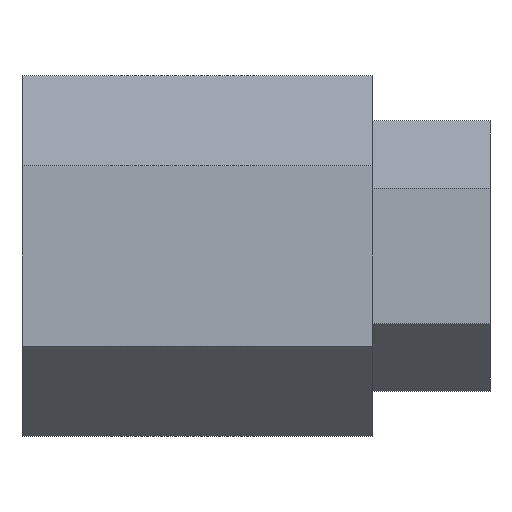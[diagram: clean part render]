
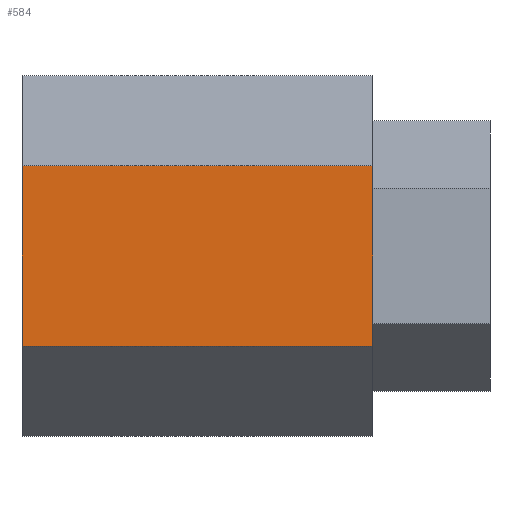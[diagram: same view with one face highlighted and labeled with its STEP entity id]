
A CAD part, left-side view. The second image highlights one B-rep face of the part: STEP entity #584.
In plain terms, the highlighted planar face has unit normal (-1, 0, 0).
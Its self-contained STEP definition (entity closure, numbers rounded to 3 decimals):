
#21 = DIRECTION ( 'NONE',  ( 0., 0., -1. ) ) ;
#99 = DIRECTION ( 'NONE',  ( 0., 0., 1. ) ) ;
#109 = EDGE_CURVE ( 'NONE', #203, #819, #821, .T. ) ;
#119 = VECTOR ( 'NONE', #235, 1000. ) ;
#126 = VERTEX_POINT ( 'NONE', #452 ) ;
#130 = EDGE_CURVE ( 'NONE', #389, #126, #740, .T. ) ;
#203 = VERTEX_POINT ( 'NONE', #476 ) ;
#235 = DIRECTION ( 'NONE',  ( 0., -1., 0. ) ) ;
#264 = EDGE_LOOP ( 'NONE', ( #789, #899, #849, #780 ) ) ;
#285 = CARTESIAN_POINT ( 'NONE',  ( -8., 0., 4.619 ) ) ;
#297 = AXIS2_PLACEMENT_3D ( 'NONE', #441, #451, #21 ) ;
#302 = EDGE_CURVE ( 'NONE', #389, #203, #408, .T. ) ;
#315 = DIRECTION ( 'NONE',  ( 0., -1., 0. ) ) ;
#337 = CARTESIAN_POINT ( 'NONE',  ( -8., 18., -4.619 ) ) ;
#360 = DIRECTION ( 'NONE',  ( 0., 0., 1. ) ) ;
#365 = CARTESIAN_POINT ( 'NONE',  ( -8., 18., 4.619 ) ) ;
#389 = VERTEX_POINT ( 'NONE', #558 ) ;
#408 = LINE ( 'NONE', #337, #674 ) ;
#441 = CARTESIAN_POINT ( 'NONE',  ( -8., 18., -4.619 ) ) ;
#451 = DIRECTION ( 'NONE',  ( 1., 0., 0. ) ) ;
#452 = CARTESIAN_POINT ( 'NONE',  ( -8., 0., -4.619 ) ) ;
#469 = EDGE_CURVE ( 'NONE', #126, #819, #723, .T. ) ;
#476 = CARTESIAN_POINT ( 'NONE',  ( -8., 18., 4.619 ) ) ;
#518 = PLANE ( 'NONE',  #297 ) ;
#558 = CARTESIAN_POINT ( 'NONE',  ( -8., 18., -4.619 ) ) ;
#584 = ADVANCED_FACE ( 'NONE', ( #805 ), #518, .F. ) ;
#594 = CARTESIAN_POINT ( 'NONE',  ( -8., 18., -4.619 ) ) ;
#674 = VECTOR ( 'NONE', #360, 1000. ) ;
#689 = VECTOR ( 'NONE', #99, 1000. ) ;
#723 = LINE ( 'NONE', #879, #689 ) ;
#740 = LINE ( 'NONE', #594, #882 ) ;
#780 = ORIENTED_EDGE ( 'NONE', *, *, #130, .T. ) ;
#789 = ORIENTED_EDGE ( 'NONE', *, *, #469, .T. ) ;
#805 = FACE_OUTER_BOUND ( 'NONE', #264, .T. ) ;
#819 = VERTEX_POINT ( 'NONE', #285 ) ;
#821 = LINE ( 'NONE', #365, #119 ) ;
#849 = ORIENTED_EDGE ( 'NONE', *, *, #302, .F. ) ;
#879 = CARTESIAN_POINT ( 'NONE',  ( -8., 0., -4.619 ) ) ;
#882 = VECTOR ( 'NONE', #315, 1000. ) ;
#899 = ORIENTED_EDGE ( 'NONE', *, *, #109, .F. ) ;
